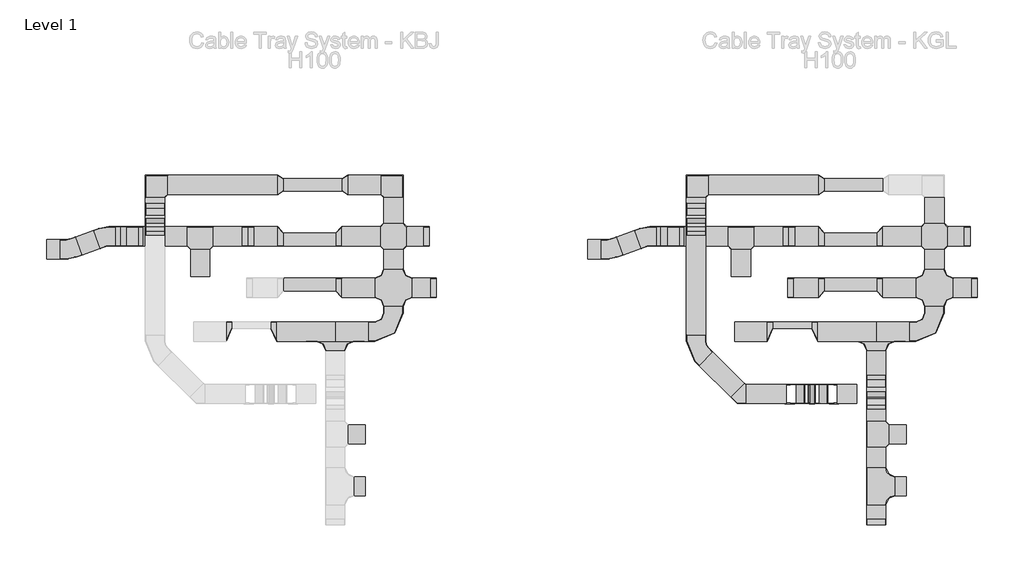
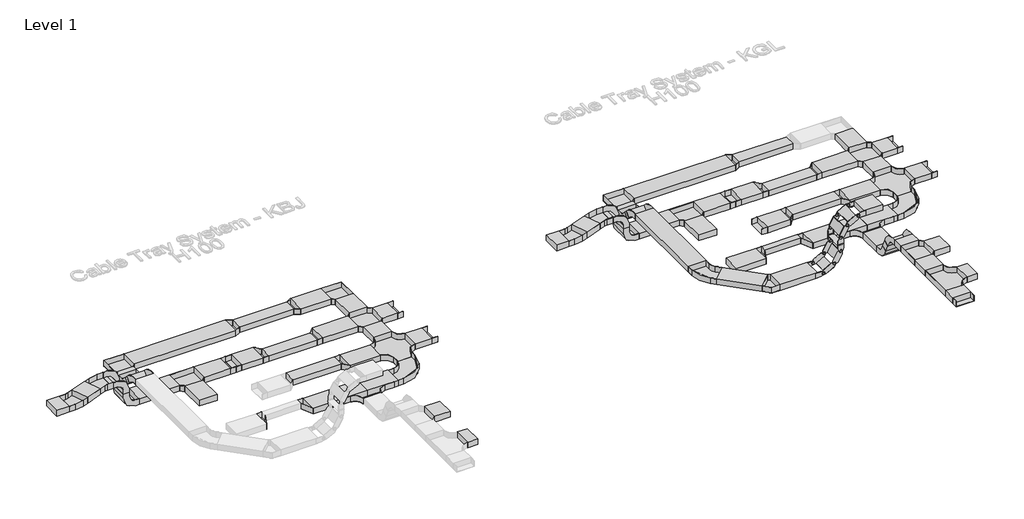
# One storey, part 25 of 106: 67 cable carrier fittings, 58 cable carrier segments.
"""IFC4 building model written with IfcOpenShell, lengths in millimetres."""

from ifc_helpers import new_model, si_unit, frame, origin, place, context, project, spatial, polyline, outline, extrude, transform, mapped, element, save
from components import cable_carrier_fitting_cb057536, cable_carrier_fitting_d4f283aa, cable_carrier_fitting_389af67d, cable_carrier_fitting_ab346bf8, cable_carrier_fitting_c163f1ca, cable_carrier_fitting_32826c86, cable_carrier_fitting_42195290, cable_carrier_fitting_5f227b89, cable_carrier_fitting_7ef83dec, cable_carrier_fitting_1d3f857e, cable_carrier_fitting_24d58ad9, cable_carrier_fitting_81c76d70, cable_carrier_fitting_e69bf5bc, cable_carrier_fitting_b7b75895, cable_carrier_fitting_0afdfe74, cable_carrier_fitting_3a6d649d, cable_carrier_fitting_2d5aa353, cable_carrier_fitting_83230dc4, cable_carrier_fitting_3cbe9e62, cable_carrier_fitting_c86838e9, cable_carrier_fitting_985dcf24, cable_carrier_fitting_ca5a2d19, cable_carrier_fitting_0a0ebc2e, cable_carrier_fitting_46bfce34, cable_carrier_fitting_f50788b4, cable_carrier_fitting_851eb94e, cable_carrier_fitting_844d2b92, cable_carrier_fitting_c0e00dde

model = new_model("IFC4")

# Units and contexts
model_context = context("Model", 3, world=origin())
ifc_project = project(units=[si_unit("LENGTHUNIT", "METRE", prefix="MILLI")], contexts=[model_context])

# Site, building, storey
site = spatial("IfcSite", under=ifc_project)
building = spatial("IfcBuilding", under=site)
storey = spatial("IfcBuildingStorey", under=building, Name="Level 1", Elevation=0.0)

# Cable carrier fittings
placement = place(None, origin())
cable_carrier_fitting_shape = cable_carrier_fitting_cb057536(model_context)
element("IfcCableCarrierFitting", 1, ObjectType="BAKS_BEND_Adjustable vertical bend element_EL : ELP_H100", at=placement, inside=storey, context=model_context, shape_type="MappedRepresentation", body=[
    mapped(cable_carrier_fitting_shape, transform((167033.2340999, 66131.3714214, 322.7153903), x_axis=(0.4999999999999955, 0.0, 0.8660254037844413), y_axis=(0.0, 1.0, 0.0), z_axis=(-0.8660254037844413, 0.0, 0.4999999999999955))),
])
element("IfcCableCarrierFitting", 2, ObjectType="BAKS_BEND_Adjustable vertical bend element_EL : ELP_H100", at=placement, inside=storey, context=model_context, shape_type="MappedRepresentation", body=[
    mapped(cable_carrier_fitting_shape, transform((166836.5219776, 66131.3714214, 223.0), x_axis=(0.8660254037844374, 0.0, 0.5000000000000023), y_axis=(0.0, 1.0, 0.0), z_axis=(-0.5000000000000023, 0.0, 0.8660254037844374))),
])
element("IfcCableCarrierFitting", 3, ObjectType="BAKS_BEND_Adjustable vertical bend element_EL : ELP_H100", at=placement, inside=storey, context=model_context, shape_type="MappedRepresentation", body=[
    mapped(cable_carrier_fitting_shape, transform((167241.4494902, 66131.3714214, 936.9011537), x_axis=(0.8660254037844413, 0.0, 0.4999999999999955), y_axis=(0.0, -1.0, 0.0), z_axis=(0.4999999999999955, 0.0, -0.8660254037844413))),
])
element("IfcCableCarrierFitting", 4, ObjectType="BAKS_BEND_Adjustable vertical bend element_EL : ELP_H100", at=placement, inside=storey, context=model_context, shape_type="MappedRepresentation", body=[
    mapped(cable_carrier_fitting_shape, transform((167141.7340999, 66131.3714214, 740.1890314), x_axis=(0.5000000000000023, 0.0, 0.8660254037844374), y_axis=(0.0, -1.0, 0.0), z_axis=(0.8660254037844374, 0.0, -0.5000000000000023))),
])
cable_carrier_fitting_2_shape = cable_carrier_fitting_d4f283aa(model_context)
element("IfcCableCarrierFitting", 5, ObjectType="BAKS_Reducer : RK(S/L/P)J_H100", at=placement, inside=storey, context=model_context, shape_type="MappedRepresentation", body=[
    mapped(cable_carrier_fitting_2_shape, transform((158399.3329462, 68580.8714214, 0.0), x_axis=(1.0, 0.0, 0.0), y_axis=(0.0, 1.0, 0.0), z_axis=(0.0, 0.0, 1.0))),
])
element("IfcCableCarrierFitting", 6, ObjectType="BAKS_Reducer : RK(S/L/P)J_H100", at=placement, inside=storey, context=model_context, shape_type="MappedRepresentation", body=[
    mapped(cable_carrier_fitting_2_shape, transform((158399.3329462, 68580.8714214, 0.0), x_axis=(-1.0, 0.0, 0.0), y_axis=(0.0, -1.0, 0.0), z_axis=(0.0, 0.0, 1.0))),
])
element("IfcCableCarrierFitting", 7, ObjectType="BAKS_Reducer : RK(S/L/P)J_H100", at=placement, inside=storey, context=model_context, shape_type="MappedRepresentation", body=[
    mapped(cable_carrier_fitting_2_shape, transform((161211.8329462, 68580.8714214, 0.0), x_axis=(-1.0, 0.0, 0.0), y_axis=(0.0, -1.0, 0.0), z_axis=(0.0, 0.0, 1.0))),
])
element("IfcCableCarrierFitting", 8, ObjectType="BAKS_Reducer : RK(S/L/P)J_H100", at=placement, inside=storey, context=model_context, shape_type="MappedRepresentation", body=[
    mapped(cable_carrier_fitting_2_shape, transform((161325.8329462, 67780.8714214, 0.0), x_axis=(-1.0, 0.0, 0.0), y_axis=(0.0, -1.0, 0.0), z_axis=(0.0, 0.0, 1.0))),
])
element("IfcCableCarrierFitting", 9, ObjectType="BAKS_Reducer : RK(S/L/P)J_H100", at=placement, inside=storey, context=model_context, shape_type="MappedRepresentation", body=[
    mapped(cable_carrier_fitting_2_shape, transform((166799.3329462, 68580.8714214, 0.0), x_axis=(1.0, 0.0, 0.0), y_axis=(0.0, 1.0, 0.0), z_axis=(0.0, 0.0, 1.0))),
])
element("IfcCableCarrierFitting", 10, ObjectType="BAKS_Reducer : RK(S/L/P)J_H100", at=placement, inside=storey, context=model_context, shape_type="MappedRepresentation", body=[
    mapped(cable_carrier_fitting_2_shape, transform((166799.3329462, 68580.8714214, 0.0), x_axis=(-1.0, 0.0, 0.0), y_axis=(0.0, -1.0, 0.0), z_axis=(0.0, 0.0, 1.0))),
])
element("IfcCableCarrierFitting", 11, ObjectType="BAKS_Reducer : RK(S/L/P)J_H100", at=placement, inside=storey, context=model_context, shape_type="MappedRepresentation", body=[
    mapped(cable_carrier_fitting_2_shape, transform((166777.8329462, 67780.8714214, 0.0), x_axis=(1.0, 0.0, 0.0), y_axis=(0.0, 1.0, 0.0), z_axis=(0.0, 0.0, 1.0))),
])
element("IfcCableCarrierFitting", 12, ObjectType="BAKS_Reducer : RK(S/L/P)J_H100", at=placement, inside=storey, context=model_context, shape_type="MappedRepresentation", body=[
    mapped(cable_carrier_fitting_2_shape, transform((169611.8329462, 68580.8714214, 0.0), x_axis=(-1.0, 0.0, 0.0), y_axis=(0.0, -1.0, 0.0), z_axis=(0.0, 0.0, 1.0))),
])
element("IfcCableCarrierFitting", 13, ObjectType="BAKS_Reducer : RK(S/L/P)J_H100", at=placement, inside=storey, context=model_context, shape_type="MappedRepresentation", body=[
    mapped(cable_carrier_fitting_2_shape, transform((169725.8329462, 67780.8714214, 0.0), x_axis=(-1.0, 0.0, 0.0), y_axis=(0.0, -1.0, 0.0), z_axis=(0.0, 0.0, 1.0))),
])
element("IfcCableCarrierFitting", 14, ObjectType="BAKS_Reducer : RK(S/L/P)J_H100", at=placement, inside=storey, context=model_context, shape_type="MappedRepresentation", body=[
    mapped(cable_carrier_fitting_2_shape, transform((168153.8329462, 64094.2974728, 432.5277378), x_axis=(0.0, 1.0, 0.0), y_axis=(-1.0, 0.0, 0.0), z_axis=(0.0, 0.0, 1.0))),
])
cable_carrier_fitting_3_shape = cable_carrier_fitting_389af67d(model_context)
element("IfcCableCarrierFitting", 15, ObjectType="BAKS_Reducer : RK(S/L/P)J_H100", at=placement, inside=storey, context=model_context, shape_type="MappedRepresentation", body=[
    mapped(cable_carrier_fitting_3_shape, transform((158856.8329462, 69380.8714214, 0.0), x_axis=(1.0, 0.0, 0.0), y_axis=(0.0, 1.0, 0.0), z_axis=(0.0, 0.0, 1.0))),
])
element("IfcCableCarrierFitting", 16, ObjectType="BAKS_Reducer : RK(S/L/P)J_H100", at=placement, inside=storey, context=model_context, shape_type="MappedRepresentation", body=[
    mapped(cable_carrier_fitting_3_shape, transform((167256.8329462, 69380.8714214, 0.0), x_axis=(1.0, 0.0, 0.0), y_axis=(0.0, 1.0, 0.0), z_axis=(0.0, 0.0, 1.0))),
])
cable_carrier_fitting_4_shape = cable_carrier_fitting_ab346bf8(model_context)
element("IfcCableCarrierFitting", 17, ObjectType="BAKS_Reducer : RK(S/L/P)J_H100", at=placement, inside=storey, context=model_context, shape_type="MappedRepresentation", body=[
    mapped(cable_carrier_fitting_4_shape, transform((159856.8329462, 69380.8714214, 0.0), x_axis=(1.0, 0.0, 0.0), y_axis=(0.0, 1.0, 0.0), z_axis=(0.0, 0.0, 1.0))),
])
cable_carrier_fitting_5_shape = cable_carrier_fitting_c163f1ca(model_context)
element("IfcCableCarrierFitting", 18, ObjectType="BAKS_Reducer : RK(S/L/P)J_H100", at=placement, inside=storey, context=model_context, shape_type="MappedRepresentation", body=[
    mapped(cable_carrier_fitting_5_shape, transform((159761.8329462, 68530.8714214, 0.0), x_axis=(1.0, 0.0, 0.0), y_axis=(0.0, 1.0, 0.0), z_axis=(0.0, 0.0, 1.0))),
])
element("IfcCableCarrierFitting", 19, ObjectType="BAKS_Reducer : RK(S/L/P)J_H100", at=placement, inside=storey, context=model_context, shape_type="MappedRepresentation", body=[
    mapped(cable_carrier_fitting_5_shape, transform((168161.8329462, 68530.8714214, 0.0), x_axis=(1.0, 0.0, 0.0), y_axis=(0.0, 1.0, 0.0), z_axis=(0.0, 0.0, 1.0))),
])
element("IfcCableCarrierFitting", 20, ObjectType="BAKS_Reducer : RK(S/L/P)J_H100", at=placement, inside=storey, context=model_context, shape_type="MappedRepresentation", body=[
    mapped(cable_carrier_fitting_5_shape, transform((167351.8329462, 67830.8714214, 0.0), x_axis=(-1.0, 0.0, 0.0), y_axis=(0.0, -1.0, 0.0), z_axis=(0.0, 0.0, 1.0))),
])
cable_carrier_fitting_6_shape = cable_carrier_fitting_32826c86(model_context)
element("IfcCableCarrierFitting", 21, ObjectType="BAKS_Reducer : RK(S/L/P)J_H100", at=placement, inside=storey, context=model_context, shape_type="MappedRepresentation", body=[
    mapped(cable_carrier_fitting_6_shape, transform((158951.8329462, 68530.8714214, 0.0), x_axis=(-1.0, 0.0, 0.0), y_axis=(0.0, -1.0, 0.0), z_axis=(0.0, 0.0, 1.0))),
])
element("IfcCableCarrierFitting", 22, ObjectType="BAKS_Reducer : RK(S/L/P)J_H100", at=placement, inside=storey, context=model_context, shape_type="MappedRepresentation", body=[
    mapped(cable_carrier_fitting_6_shape, transform((159761.8329462, 67830.8714214, 0.0), x_axis=(1.0, 0.0, 0.0), y_axis=(0.0, 1.0, 0.0), z_axis=(0.0, 0.0, 1.0))),
])
element("IfcCableCarrierFitting", 23, ObjectType="BAKS_Reducer : RK(S/L/P)J_H100", at=placement, inside=storey, context=model_context, shape_type="MappedRepresentation", body=[
    mapped(cable_carrier_fitting_6_shape, transform((167351.8329462, 68530.8714214, 0.0), x_axis=(-1.0, 0.0, 0.0), y_axis=(0.0, -1.0, 0.0), z_axis=(0.0, 0.0, 1.0))),
])
element("IfcCableCarrierFitting", 24, ObjectType="BAKS_Reducer : RK(S/L/P)J_H100", at=placement, inside=storey, context=model_context, shape_type="MappedRepresentation", body=[
    mapped(cable_carrier_fitting_6_shape, transform((168161.8329462, 67830.8714214, 0.0), x_axis=(1.0, 0.0, 0.0), y_axis=(0.0, 1.0, 0.0), z_axis=(0.0, 0.0, 1.0))),
])
cable_carrier_fitting_7_shape = cable_carrier_fitting_42195290(model_context)
element("IfcCableCarrierFitting", 25, ObjectType="BAKS_Horizontal bend : KKJ/KKMJ_H100", at=placement, inside=storey, context=model_context, shape_type="MappedRepresentation", body=[
    mapped(cable_carrier_fitting_7_shape, transform((160656.8329462, 69380.8714214, 0.0), x_axis=(0.0, 1.0, 0.0), y_axis=(-1.0, 0.0, 0.0), z_axis=(0.0, 0.0, 1.0))),
])
element("IfcCableCarrierFitting", 26, ObjectType="BAKS_Horizontal bend : KKJ/KKMJ_H100", at=placement, inside=storey, context=model_context, shape_type="MappedRepresentation", body=[
    mapped(cable_carrier_fitting_7_shape, transform((156956.8329462, 69380.8714214, 0.0), x_axis=(-1.0, 0.0, 0.0), y_axis=(0.0, -1.0, 0.0), z_axis=(0.0, 0.0, 1.0))),
])
element("IfcCableCarrierFitting", 27, ObjectType="BAKS_Horizontal bend : KKJ/KKMJ_H100", at=placement, inside=storey, context=model_context, shape_type="MappedRepresentation", body=[
    mapped(cable_carrier_fitting_7_shape, transform((165356.8329462, 69380.8714214, 0.0), x_axis=(-1.0, 0.0, 0.0), y_axis=(0.0, -1.0, 0.0), z_axis=(0.0, 0.0, 1.0))),
])
cable_carrier_fitting_8_shape = cable_carrier_fitting_5f227b89(model_context)
element("IfcCableCarrierFitting", 28, ObjectType="BAKS_Horizontal cross over : CZKJ_H100", at=placement, inside=storey, context=model_context, shape_type="MappedRepresentation", body=[
    mapped(cable_carrier_fitting_8_shape, transform((160656.8329462, 68580.8714214, 0.0), x_axis=(0.0, -1.0, 0.0), y_axis=(1.0, 0.0, 0.0), z_axis=(0.0, 0.0, 1.0))),
])
element("IfcCableCarrierFitting", 29, ObjectType="BAKS_Horizontal cross over : CZKJ_H100", at=placement, inside=storey, context=model_context, shape_type="MappedRepresentation", body=[
    mapped(cable_carrier_fitting_8_shape, transform((169056.8329462, 68580.8714214, 0.0), x_axis=(0.0, -1.0, 0.0), y_axis=(1.0, 0.0, 0.0), z_axis=(0.0, 0.0, 1.0))),
])
cable_carrier_fitting_9_shape = cable_carrier_fitting_7ef83dec(model_context)
element("IfcCableCarrierFitting", 30, ObjectType="BAKS_Horizontal cross over radius : CZKPJ_H100", at=placement, inside=storey, context=model_context, shape_type="MappedRepresentation", body=[
    mapped(cable_carrier_fitting_9_shape, transform((160656.8329462, 67780.8714214, 0.0), x_axis=(0.0, -1.0, 0.0), y_axis=(1.0, 0.0, 0.0), z_axis=(0.0, 0.0, 1.0))),
])
element("IfcCableCarrierFitting", 31, ObjectType="BAKS_Horizontal cross over radius : CZKPJ_H100", at=placement, inside=storey, context=model_context, shape_type="MappedRepresentation", body=[
    mapped(cable_carrier_fitting_9_shape, transform((169056.8329462, 67780.8714214, 0.0), x_axis=(0.0, -1.0, 0.0), y_axis=(1.0, 0.0, 0.0), z_axis=(0.0, 0.0, 1.0))),
])
cable_carrier_fitting_10_shape = cable_carrier_fitting_1d3f857e(model_context)
element("IfcCableCarrierFitting", 32, ObjectType="BAKS_Horizontal bend radius : KKPJ/KKMPJ_H100", at=placement, inside=storey, context=model_context, shape_type="MappedRepresentation", body=[
    mapped(cable_carrier_fitting_10_shape, transform((165356.8329462, 66830.8714214, 235.0), x_axis=(0.0, -1.0, 0.0), y_axis=(1.0, 0.0, 0.0), z_axis=(0.0, 0.0, 1.0))),
])
cable_carrier_fitting_11_shape = cable_carrier_fitting_24d58ad9(model_context)
element("IfcCableCarrierFitting", 33, ObjectType="BAKS_Horizontal bend radius : KKPJ/KKMPJ_H100", at=placement, inside=storey, context=model_context, shape_type="MappedRepresentation", body=[
    mapped(cable_carrier_fitting_11_shape, transform((160656.8329462, 67099.8714214, 0.0), x_axis=(1.0, 0.0, 0.0), y_axis=(0.0, 1.0, 0.0), z_axis=(0.0, 0.0, 1.0))),
])
element("IfcCableCarrierFitting", 34, ObjectType="BAKS_Horizontal bend radius : KKPJ/KKMPJ_H100", at=placement, inside=storey, context=model_context, shape_type="MappedRepresentation", body=[
    mapped(cable_carrier_fitting_11_shape, transform((169056.8329462, 67099.8714214, 0.0), x_axis=(1.0, 0.0, 0.0), y_axis=(0.0, 1.0, 0.0), z_axis=(0.0, 0.0, 1.0))),
])
cable_carrier_fitting_12_shape = cable_carrier_fitting_81c76d70(model_context)
element("IfcCableCarrierFitting", 35, ObjectType="BAKS_Horizontal addon tee : TKDJ_H100", at=placement, inside=storey, context=model_context, shape_type="MappedRepresentation", body=[
    mapped(cable_carrier_fitting_12_shape, transform((159753.8329462, 67099.8714214, 0.0), x_axis=(1.0, 0.0, 0.0), y_axis=(0.0, 1.0, 0.0), z_axis=(0.0, 0.0, 1.0))),
])
element("IfcCableCarrierFitting", 36, ObjectType="BAKS_Horizontal addon tee : TKDJ_H100", at=placement, inside=storey, context=model_context, shape_type="MappedRepresentation", body=[
    mapped(cable_carrier_fitting_12_shape, transform((168153.8329462, 67099.8714214, 0.0), x_axis=(1.0, 0.0, 0.0), y_axis=(0.0, 1.0, 0.0), z_axis=(0.0, 0.0, 1.0))),
])
cable_carrier_fitting_13_shape = cable_carrier_fitting_e69bf5bc(model_context)
element("IfcCableCarrierFitting", 37, ObjectType="BAKS_Reducer : RK(S/L/P)J_H100", at=placement, inside=storey, context=model_context, shape_type="MappedRepresentation", body=[
    mapped(cable_carrier_fitting_13_shape, transform((158750.8329462, 67199.8714214, 0.0), x_axis=(1.0, 0.0, 0.0), y_axis=(0.0, 1.0, 0.0), z_axis=(0.0, 0.0, 1.0))),
])
element("IfcCableCarrierFitting", 38, ObjectType="BAKS_Reducer : RK(S/L/P)J_H100", at=placement, inside=storey, context=model_context, shape_type="MappedRepresentation", body=[
    mapped(cable_carrier_fitting_13_shape, transform((167150.8329462, 67199.8714214, 0.0), x_axis=(1.0, 0.0, 0.0), y_axis=(0.0, 1.0, 0.0), z_axis=(0.0, 0.0, 1.0))),
])
cable_carrier_fitting_14_shape = cable_carrier_fitting_b7b75895(model_context)
element("IfcCableCarrierFitting", 39, ObjectType="BAKS_Reducer : RK(S/L/P)J_H100", at=placement, inside=storey, context=model_context, shape_type="MappedRepresentation", body=[
    mapped(cable_carrier_fitting_14_shape, transform((158152.8329462, 67199.8714214, 0.0), x_axis=(-1.0, 0.0, 0.0), y_axis=(0.0, -1.0, 0.0), z_axis=(0.0, 0.0, 1.0))),
])
element("IfcCableCarrierFitting", 40, ObjectType="BAKS_Reducer : RK(S/L/P)J_H100", at=placement, inside=storey, context=model_context, shape_type="MappedRepresentation", body=[
    mapped(cable_carrier_fitting_14_shape, transform((166552.8329462, 67199.8714214, 0.0), x_axis=(-1.0, 0.0, 0.0), y_axis=(0.0, -1.0, 0.0), z_axis=(0.0, 0.0, 1.0))),
])
cable_carrier_fitting_15_shape = cable_carrier_fitting_0afdfe74(model_context)
element("IfcCableCarrierFitting", 41, ObjectType="BAKS_Horizontal tee : TKJ_H100", at=placement, inside=storey, context=model_context, shape_type="MappedRepresentation", body=[
    mapped(cable_carrier_fitting_15_shape, transform((157656.3329462, 68580.8714214, 0.0), x_axis=(1.0, 0.0, 0.0), y_axis=(0.0, 1.0, 0.0), z_axis=(0.0, 0.0, 1.0))),
])
element("IfcCableCarrierFitting", 42, ObjectType="BAKS_Horizontal tee : TKJ_H100", at=placement, inside=storey, context=model_context, shape_type="MappedRepresentation", body=[
    mapped(cable_carrier_fitting_15_shape, transform((166056.3329462, 68580.8714214, 0.0), x_axis=(1.0, 0.0, 0.0), y_axis=(0.0, 1.0, 0.0), z_axis=(0.0, 0.0, 1.0))),
])
element("IfcCableCarrierFitting", 43, ObjectType="BAKS_Horizontal tee : TKJ_H100", at=placement, inside=storey, context=model_context, shape_type="MappedRepresentation", body=[
    mapped(cable_carrier_fitting_15_shape, transform((168153.8329462, 65503.8631068, 432.5277378), x_axis=(0.0, 1.0, 0.0), y_axis=(-1.0, 0.0, 0.0), z_axis=(0.0, 0.0, 1.0))),
])
cable_carrier_fitting_16_shape = cable_carrier_fitting_3a6d649d(model_context)
element("IfcCableCarrierFitting", 44, ObjectType="BAKS_Horizontal bend radius : KKPJ/KKMPJ_H100", at=placement, inside=storey, context=model_context, shape_type="MappedRepresentation", body=[
    mapped(cable_carrier_fitting_16_shape, transform((156186.1981218, 68580.8714214, 438.0), x_axis=(-1.0, 0.0, 0.0), y_axis=(0.0, -1.0, 0.0), z_axis=(0.0, 0.0, 1.0))),
])
element("IfcCableCarrierFitting", 45, ObjectType="BAKS_Horizontal bend radius : KKPJ/KKMPJ_H100", at=placement, inside=storey, context=model_context, shape_type="MappedRepresentation", body=[
    mapped(cable_carrier_fitting_16_shape, transform((155630.7130894, 68378.691404, 438.0), x_axis=(1.0, 0.0, 0.0), y_axis=(0.0, 1.0, 0.0), z_axis=(0.0, 0.0, 1.0))),
])
element("IfcCableCarrierFitting", 46, ObjectType="BAKS_Horizontal bend radius : KKPJ/KKMPJ_H100", at=placement, inside=storey, context=model_context, shape_type="MappedRepresentation", body=[
    mapped(cable_carrier_fitting_16_shape, transform((164586.1981218, 68580.8714214, 438.0), x_axis=(-1.0, 0.0, 0.0), y_axis=(0.0, -1.0, 0.0), z_axis=(0.0, 0.0, 1.0))),
])
element("IfcCableCarrierFitting", 47, ObjectType="BAKS_Horizontal bend radius : KKPJ/KKMPJ_H100", at=placement, inside=storey, context=model_context, shape_type="MappedRepresentation", body=[
    mapped(cable_carrier_fitting_16_shape, transform((164030.7130894, 68378.691404, 438.0), x_axis=(1.0, 0.0, 0.0), y_axis=(0.0, 1.0, 0.0), z_axis=(0.0, 0.0, 1.0))),
])
cable_carrier_fitting_17_shape = cable_carrier_fitting_2d5aa353(model_context)
element("IfcCableCarrierFitting", 48, ObjectType="BAKS_BEND_Articulated connector_LGP : LGP_H100", at=placement, inside=storey, context=model_context, shape_type="MappedRepresentation", body=[
    mapped(cable_carrier_fitting_17_shape, transform((166857.3065873, 65981.3714214, 235.0), x_axis=(1.0, 0.0, 0.0), y_axis=(0.0, 0.0, 1.0), z_axis=(0.0, -1.0, 0.0))),
])
element("IfcCableCarrierFitting", 49, ObjectType="BAKS_BEND_Articulated connector_LGP : LGP_H100", at=placement, inside=storey, context=model_context, shape_type="MappedRepresentation", body=[
    mapped(cable_carrier_fitting_17_shape, transform((167153.7340999, 66281.3714214, 760.9736411), x_axis=(0.0, 0.0, 1.0), y_axis=(1.0, 0.0, 0.0), z_axis=(0.0, 1.0, 0.0))),
])
cable_carrier_fitting_18_shape = cable_carrier_fitting_83230dc4(model_context)
element("IfcCableCarrierFitting", 50, ObjectType="BAKS_BEND_Articulated connector_LGP : LGP_H100", at=placement, inside=storey, context=model_context, shape_type="MappedRepresentation", body=[
    mapped(cable_carrier_fitting_18_shape, transform((167153.7340999, 65981.3714214, 531.4275126), x_axis=(0.4999999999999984, 0.0, 0.8660254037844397), y_axis=(-0.8660254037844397, 0.0, 0.4999999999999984), z_axis=(0.0, -1.0, 0.0))),
])
element("IfcCableCarrierFitting", 51, ObjectType="BAKS_BEND_Articulated connector_LGP : LGP_H100", at=placement, inside=storey, context=model_context, shape_type="MappedRepresentation", body=[
    mapped(cable_carrier_fitting_18_shape, transform((167450.1616126, 66281.3714214, 1057.4011537), x_axis=(0.8660254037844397, 0.0, 0.4999999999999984), y_axis=(0.4999999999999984, 0.0, -0.8660254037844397), z_axis=(0.0, 1.0, 0.0))),
])
cable_carrier_fitting_19_shape = cable_carrier_fitting_3cbe9e62(model_context)
element("IfcCableCarrierFitting", 52, ObjectType="BAKS_BEND_Articulated connector_LGP : LGP_H100", at=placement, inside=storey, context=model_context, shape_type="MappedRepresentation", body=[
    mapped(cable_carrier_fitting_19_shape, transform((167153.7340999, 66281.3714214, 531.4275126), x_axis=(0.4999999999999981, 0.0, 0.8660254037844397), y_axis=(0.8660254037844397, 0.0, -0.4999999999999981), z_axis=(0.0, 1.0, 0.0))),
])
element("IfcCableCarrierFitting", 53, ObjectType="BAKS_BEND_Articulated connector_LGP : LGP_H100", at=placement, inside=storey, context=model_context, shape_type="MappedRepresentation", body=[
    mapped(cable_carrier_fitting_19_shape, transform((167450.1616126, 65981.3714214, 1057.4011537), x_axis=(0.8660254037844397, 0.0, 0.4999999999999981), y_axis=(-0.4999999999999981, 0.0, 0.8660254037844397), z_axis=(0.0, -1.0, 0.0))),
])
cable_carrier_fitting_20_shape = cable_carrier_fitting_c86838e9(model_context)
element("IfcCableCarrierFitting", 54, ObjectType="BAKS_BEND_Articulated connector_LGP : LGP_H100", at=placement, inside=storey, context=model_context, shape_type="MappedRepresentation", body=[
    mapped(cable_carrier_fitting_20_shape, transform((166857.3065873, 66281.3714214, 235.0), x_axis=(1.0, 0.0, 0.0), y_axis=(0.0, 0.0, -1.0), z_axis=(0.0, 1.0, 0.0))),
])
element("IfcCableCarrierFitting", 55, ObjectType="BAKS_BEND_Articulated connector_LGP : LGP_H100", at=placement, inside=storey, context=model_context, shape_type="MappedRepresentation", body=[
    mapped(cable_carrier_fitting_20_shape, transform((167153.7340999, 65981.3714214, 760.9736411), x_axis=(0.0, 0.0, 1.0), y_axis=(-1.0, 0.0, 0.0), z_axis=(0.0, -1.0, 0.0))),
])
cable_carrier_fitting_21_shape = cable_carrier_fitting_985dcf24(model_context)
element("IfcCableCarrierFitting", 56, ObjectType="BAKS_Horizontal bend : KKJ/KKMJ_H100", at=placement, inside=storey, context=model_context, shape_type="MappedRepresentation", body=[
    mapped(cable_carrier_fitting_21_shape, transform((166056.3329462, 66131.3714214, 235.0), x_axis=(0.707106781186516, -0.707106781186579, 0.0), y_axis=(0.707106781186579, 0.707106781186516, 0.0), z_axis=(0.0, 0.0, 1.0))),
])
cable_carrier_fitting_22_shape = cable_carrier_fitting_ca5a2d19(model_context)
element("IfcCableCarrierFitting", 57, ObjectType="BAKS_Horizontal tee radius : TKPJ_H100", at=placement, inside=storey, context=model_context, shape_type="MappedRepresentation", body=[
    mapped(cable_carrier_fitting_22_shape, transform((168153.8329462, 64696.5802898, 432.5277378), x_axis=(0.0, 1.0, 0.0), y_axis=(-1.0, 0.0, 0.0), z_axis=(0.0, 0.0, 1.0))),
])
cable_carrier_fitting_23_shape = cable_carrier_fitting_0a0ebc2e(model_context)
element("IfcCableCarrierFitting", 58, ObjectType="BAKS_KK_Vertical bend INTERNAL_LU : LUNJ_H100", at=placement, inside=storey, context=model_context, shape_type="MappedRepresentation", body=[
    mapped(cable_carrier_fitting_23_shape, transform((156556.3329462, 68580.8714214, 438.0), x_axis=(0.0, 0.0, 1.0), y_axis=(-1.0, 0.0, 0.0), z_axis=(0.0, -1.0, 0.0))),
])
element("IfcCableCarrierFitting", 59, ObjectType="BAKS_KK_Vertical bend INTERNAL_LU : LUNJ_H100", at=placement, inside=storey, context=model_context, shape_type="MappedRepresentation", body=[
    mapped(cable_carrier_fitting_23_shape, transform((164956.3329462, 68580.8714214, 438.0), x_axis=(0.0, 0.0, 1.0), y_axis=(-1.0, 0.0, 0.0), z_axis=(0.0, -1.0, 0.0))),
])
cable_carrier_fitting_24_shape = cable_carrier_fitting_46bfce34(model_context)
element("IfcCableCarrierFitting", 60, ObjectType="BAKS_KK_Vertical bend EXTERNAL_LU : LUNJ_H100", at=placement, inside=storey, context=model_context, shape_type="MappedRepresentation", body=[
    mapped(cable_carrier_fitting_24_shape, transform((156556.3329462, 68580.8714214, 0.0), x_axis=(-1.0, 0.0, 0.0), y_axis=(0.0, 0.0, 1.0), z_axis=(0.0, 1.0, 0.0))),
])
element("IfcCableCarrierFitting", 61, ObjectType="BAKS_KK_Vertical bend EXTERNAL_LU : LUNJ_H100", at=placement, inside=storey, context=model_context, shape_type="MappedRepresentation", body=[
    mapped(cable_carrier_fitting_24_shape, transform((164956.3329462, 68580.8714214, 0.0), x_axis=(-1.0, 0.0, 0.0), y_axis=(0.0, 0.0, 1.0), z_axis=(0.0, 1.0, 0.0))),
])
cable_carrier_fitting_25_shape = cable_carrier_fitting_f50788b4(model_context)
element("IfcCableCarrierFitting", 62, ObjectType="BAKS_KK_Vertical bend EXTERNAL_LU : LUMNJ_H100", at=placement, inside=storey, context=model_context, shape_type="MappedRepresentation", body=[
    mapped(cable_carrier_fitting_25_shape, transform((168153.8329462, 66258.7056523, 0.0), x_axis=(0.0, -1.0, 0.0), y_axis=(0.0, 0.0, 1.0), z_axis=(-1.0, 0.0, 0.0))),
])
cable_carrier_fitting_26_shape = cable_carrier_fitting_851eb94e(model_context)
element("IfcCableCarrierFitting", 63, ObjectType="BAKS_KK_Vertical bend EXTERNAL_LU : LUMNJ_H100", at=placement, inside=storey, context=model_context, shape_type="MappedRepresentation", body=[
    mapped(cable_carrier_fitting_26_shape, transform((156956.8329462, 68960.8714214, 0.0), x_axis=(0.0, -1.0, 0.0), y_axis=(0.0, 0.0, 1.0), z_axis=(-1.0, 0.0, 0.0))),
])
element("IfcCableCarrierFitting", 64, ObjectType="BAKS_KK_Vertical bend EXTERNAL_LU : LUMNJ_H100", at=placement, inside=storey, context=model_context, shape_type="MappedRepresentation", body=[
    mapped(cable_carrier_fitting_26_shape, transform((165356.8329462, 68960.8714214, 0.0), x_axis=(0.0, -1.0, 0.0), y_axis=(0.0, 0.0, 1.0), z_axis=(-1.0, 0.0, 0.0))),
])
cable_carrier_fitting_27_shape = cable_carrier_fitting_844d2b92(model_context)
element("IfcCableCarrierFitting", 65, ObjectType="BAKS_KK_Vertical bend INTERNAL_LU : LUMNJ_H100", at=placement, inside=storey, context=model_context, shape_type="MappedRepresentation", body=[
    mapped(cable_carrier_fitting_27_shape, transform((168153.8329462, 66057.0146558, 432.5277378), x_axis=(0.0, -0.42261826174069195, 0.9063077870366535), y_axis=(0.0, -0.9063077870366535, -0.42261826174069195), z_axis=(1.0, 0.0, 0.0))),
])
cable_carrier_fitting_28_shape = cable_carrier_fitting_c0e00dde(model_context)
element("IfcCableCarrierFitting", 66, ObjectType="BAKS_KK_Vertical bend INTERNAL_LU : LUMNJ_H100", at=placement, inside=storey, context=model_context, shape_type="MappedRepresentation", body=[
    mapped(cable_carrier_fitting_28_shape, transform((156956.8329462, 68725.8714214, 235.0), x_axis=(0.0, 1.0, 0.0), y_axis=(0.0, 0.0, -1.0), z_axis=(-1.0, 0.0, 0.0))),
])
element("IfcCableCarrierFitting", 67, ObjectType="BAKS_KK_Vertical bend INTERNAL_LU : LUMNJ_H100", at=placement, inside=storey, context=model_context, shape_type="MappedRepresentation", body=[
    mapped(cable_carrier_fitting_28_shape, transform((165356.8329462, 68725.8714214, 235.0), x_axis=(0.0, 1.0, 0.0), y_axis=(0.0, 0.0, -1.0), z_axis=(-1.0, 0.0, 0.0))),
])

# Cable carrier segments
element("IfcCableCarrierSegment", 68, ObjectType="BAKS - Cable tray H100 (KBJ)", at=placement, inside=storey, context=model_context, shape_type="SweptSolid", body=[
    extrude(outline(polyline([(158951.8329462, 69280.8714214), (158951.8329462, 69480.8714214), (159856.8329462, 69480.8714214), (159856.8329462, 69280.8714214), (158951.8329462, 69280.8714214)])), frame((0.0, 0.0, -50.0), z_axis=(0.0, 0.0, 1.0), x_axis=(1.0, 0.0, 0.0)), (0.0, 0.0, 1.0), 100.0),
])
element("IfcCableCarrierSegment", 69, ObjectType="BAKS - Cable tray H100 (KBJ)", at=placement, inside=storey, context=model_context, shape_type="SweptSolid", body=[
    extrude(outline(polyline([(159951.8329462, 69230.8714214), (159951.8329462, 69530.8714214), (160460.8329462, 69530.8714214), (160460.8329462, 69230.8714214), (159951.8329462, 69230.8714214)])), frame((0.0, 0.0, -50.0), z_axis=(0.0, 0.0, 1.0), x_axis=(1.0, 0.0, 0.0)), (0.0, 0.0, 1.0), 100.0),
])
element("IfcCableCarrierSegment", 70, ObjectType="BAKS - Cable tray H100 (KBJ)", at=placement, inside=storey, context=model_context, shape_type="SweptSolid", body=[
    extrude(outline(polyline([(160506.8329462, 69184.8714214), (160806.8329462, 69184.8714214), (160806.8329462, 68785.8714214), (160506.8329462, 68785.8714214), (160506.8329462, 69184.8714214)])), frame((0.0, 0.0, -50.0), z_axis=(0.0, 0.0, 1.0), x_axis=(1.0, 0.0, 0.0)), (0.0, 0.0, 1.0), 100.0),
])
element("IfcCableCarrierSegment", 71, ObjectType="BAKS - Cable tray H100 (KBJ)", at=placement, inside=storey, context=model_context, shape_type="SweptSolid", body=[
    extrude(outline(polyline([(160506.8329462, 68375.8714214), (160806.8329462, 68375.8714214), (160806.8329462, 68071.8714214), (160506.8329462, 68071.8714214), (160506.8329462, 68375.8714214)])), frame((0.0, 0.0, -50.0), z_axis=(0.0, 0.0, 1.0), x_axis=(1.0, 0.0, 0.0)), (0.0, 0.0, 1.0), 100.0),
])
element("IfcCableCarrierSegment", 72, ObjectType="BAKS - Cable tray H100 (KBJ)", at=placement, inside=storey, context=model_context, shape_type="SweptSolid", body=[
    extrude(outline(polyline([(159761.8329462, 68630.8714214), (159761.8329462, 68430.8714214), (158951.8329462, 68430.8714214), (158951.8329462, 68630.8714214), (159761.8329462, 68630.8714214)])), frame((0.0, 0.0, -50.0), z_axis=(0.0, 0.0, 1.0), x_axis=(1.0, 0.0, 0.0)), (0.0, 0.0, 1.0), 100.0),
])
element("IfcCableCarrierSegment", 73, ObjectType="BAKS - Cable tray H100 (KBJ)", at=placement, inside=storey, context=model_context, shape_type="SweptSolid", body=[
    extrude(outline(polyline([(158494.3329462, 68430.8714214), (158494.3329462, 68730.8714214), (158856.8329462, 68730.8714214), (158856.8329462, 68430.8714214), (158494.3329462, 68430.8714214)])), frame((0.0, 0.0, -50.0), z_axis=(0.0, 0.0, 1.0), x_axis=(1.0, 0.0, 0.0)), (0.0, 0.0, 1.0), 100.0),
])
element("IfcCableCarrierSegment", 74, ObjectType="BAKS - Cable tray H100 (KBJ)", at=placement, inside=storey, context=model_context, shape_type="SweptSolid", body=[
    extrude(outline(polyline([(160451.8329462, 68730.8714214), (160451.8329462, 68430.8714214), (159856.8329462, 68430.8714214), (159856.8329462, 68730.8714214), (160451.8329462, 68730.8714214)])), frame((0.0, 0.0, -50.0), z_axis=(0.0, 0.0, 1.0), x_axis=(1.0, 0.0, 0.0)), (0.0, 0.0, 1.0), 100.0),
])
element("IfcCableCarrierSegment", 75, ObjectType="BAKS - Cable tray H100 (KBJ)", at=placement, inside=storey, context=model_context, shape_type="SweptSolid", body=[
    extrude(outline(polyline([(159761.8329462, 67930.8714214), (159761.8329462, 67730.8714214), (158951.8329462, 67730.8714214), (158951.8329462, 67930.8714214), (159761.8329462, 67930.8714214)])), frame((0.0, 0.0, -50.0), z_axis=(0.0, 0.0, 1.0), x_axis=(1.0, 0.0, 0.0)), (0.0, 0.0, 1.0), 100.0),
])
element("IfcCableCarrierSegment", 76, ObjectType="BAKS - Cable tray H100 (KBJ)", at=placement, inside=storey, context=model_context, shape_type="SweptSolid", body=[
    extrude(outline(polyline([(160365.8329462, 67930.8714214), (160365.8329462, 67630.8714214), (159856.8329462, 67630.8714214), (159856.8329462, 67930.8714214), (160365.8329462, 67930.8714214)])), frame((0.0, 0.0, -50.0), z_axis=(0.0, 0.0, 1.0), x_axis=(1.0, 0.0, 0.0)), (0.0, 0.0, 1.0), 100.0),
])
element("IfcCableCarrierSegment", 77, ObjectType="BAKS - Cable tray H100 (KBJ)", at=placement, inside=storey, context=model_context, shape_type="SweptSolid", body=[
    extrude(outline(polyline([(157451.3329462, 68730.8714214), (157451.3329462, 68430.8714214), (156775.3329462, 68430.8714214), (156775.3329462, 68730.8714214), (157451.3329462, 68730.8714214)])), frame((0.0, 0.0, -50.0), z_axis=(0.0, 0.0, 1.0), x_axis=(1.0, 0.0, 0.0)), (0.0, 0.0, 1.0), 100.0),
])
element("IfcCableCarrierSegment", 78, ObjectType="BAKS - Cable tray H100 (KBJ)", at=placement, inside=storey, context=model_context, shape_type="SweptSolid", body=[
    extrude(outline(polyline([(157506.3329462, 68375.8714214), (157806.3329462, 68375.8714214), (157806.3329462, 67955.8714214), (157506.3329462, 67955.8714214), (157506.3329462, 68375.8714214)])), frame((0.0, 0.0, -50.0), z_axis=(0.0, 0.0, 1.0), x_axis=(1.0, 0.0, 0.0)), (0.0, 0.0, 1.0), 100.0),
])
element("IfcCableCarrierSegment", 79, ObjectType="BAKS - Cable tray H100 (KBJ)", at=placement, inside=storey, context=model_context, shape_type="SweptSolid", body=[
    extrude(outline(polyline([(158304.3329462, 68730.8714214), (158304.3329462, 68430.8714214), (157861.3329462, 68430.8714214), (157861.3329462, 68730.8714214), (158304.3329462, 68730.8714214)])), frame((0.0, 0.0, -50.0), z_axis=(0.0, 0.0, 1.0), x_axis=(1.0, 0.0, 0.0)), (0.0, 0.0, 1.0), 100.0),
])
element("IfcCableCarrierSegment", 80, ObjectType="BAKS - Cable tray H100 (KBJ)", at=placement, inside=storey, context=model_context, shape_type="SweptSolid", body=[
    extrude(outline(polyline([(160268.9020345, 67249.8714214), (160268.9020345, 66949.8714214), (159754.3750376, 66949.8714214), (159754.3750376, 67249.8714214), (160268.9020345, 67249.8714214)])), frame((0.0, 0.0, -50.0), z_axis=(0.0, 0.0, 1.0), x_axis=(1.0, 0.0, 0.0)), (0.0, 0.0, 1.0), 100.0),
])
element("IfcCableCarrierSegment", 81, ObjectType="BAKS - Cable tray H100 (KBJ)", at=placement, inside=storey, context=model_context, shape_type="SweptSolid", body=[
    extrude(outline(polyline([(160861.8329462, 68430.8714214), (160861.8329462, 68730.8714214), (161116.8329462, 68730.8714214), (161116.8329462, 68430.8714214), (160861.8329462, 68430.8714214)])), frame((0.0, 0.0, -50.0), z_axis=(0.0, 0.0, 1.0), x_axis=(1.0, 0.0, 0.0)), (0.0, 0.0, 1.0), 100.0),
])
element("IfcCableCarrierSegment", 82, ObjectType="BAKS - Cable tray H100 (KBJ)", at=placement, inside=storey, context=model_context, shape_type="SweptSolid", body=[
    extrude(outline(polyline([(160947.8329462, 67630.8714214), (160947.8329462, 67930.8714214), (161230.8329462, 67930.8714214), (161230.8329462, 67630.8714214), (160947.8329462, 67630.8714214)])), frame((0.0, 0.0, -50.0), z_axis=(0.0, 0.0, 1.0), x_axis=(1.0, 0.0, 0.0)), (0.0, 0.0, 1.0), 100.0),
])
element("IfcCableCarrierSegment", 83, ObjectType="BAKS - Cable tray H100 (KBJ)", at=placement, inside=storey, context=model_context, shape_type="SweptSolid", body=[
    extrude(outline(polyline([(157152.8329462, 69230.8714214), (157152.8329462, 69530.8714214), (158856.8329462, 69530.8714214), (158856.8329462, 69230.8714214), (157152.8329462, 69230.8714214)])), frame((0.0, 0.0, -50.0), z_axis=(0.0, 0.0, 1.0), x_axis=(1.0, 0.0, 0.0)), (0.0, 0.0, 1.0), 100.0),
])
element("IfcCableCarrierSegment", 84, ObjectType="BAKS - Cable tray H100 (KBJ)", at=placement, inside=storey, context=model_context, shape_type="SweptSolid", body=[
    extrude(outline(polyline([(159958.8329462, 65353.8631068), (159958.8329462, 65653.8631068), (160221.4800024, 65653.8631068), (160221.4800024, 65353.8631068), (159958.8329462, 65353.8631068)])), frame((0.0, 0.0, 382.5277378), z_axis=(0.0, 0.0, 1.0), x_axis=(1.0, 0.0, 0.0)), (0.0, 0.0, 1.0), 100.0),
])
element("IfcCableCarrierSegment", 85, ObjectType="BAKS - Cable tray H100 (KBJ)", at=placement, inside=storey, context=model_context, shape_type="SweptSolid", body=[
    extrude(outline(polyline([(160048.8329462, 64546.5802898), (160048.8329462, 64846.5802898), (160221.4800024, 64846.5802898), (160221.4800024, 64546.5802898), (160048.8329462, 64546.5802898)])), frame((0.0, 0.0, 382.5277378), z_axis=(0.0, 0.0, 1.0), x_axis=(1.0, 0.0, 0.0)), (0.0, 0.0, 1.0), 100.0),
])
element("IfcCableCarrierSegment", 86, ObjectType="BAKS - Cable tray H100 (KBJ)", at=placement, inside=storey, context=model_context, shape_type="SweptSolid", body=[
    extrude(outline(polyline([(158845.8329462, 66949.8714214), (158845.8329462, 67249.8714214), (159753.2908549, 67249.8714214), (159753.2908549, 66949.8714214), (158845.8329462, 66949.8714214)])), frame((0.0, 0.0, -50.0), z_axis=(0.0, 0.0, 1.0), x_axis=(1.0, 0.0, 0.0)), (0.0, 0.0, 1.0), 100.0),
])
element("IfcCableCarrierSegment", 87, ObjectType="BAKS - Cable tray H100 (KBJ)", at=placement, inside=storey, context=model_context, shape_type="SweptSolid", body=[
    extrude(outline(polyline([(155992.8748211, 68670.1341602), (156095.4808641, 68388.226374), (155824.0363902, 68289.4286652), (155721.4303472, 68571.3364515), (155992.8748211, 68670.1341602)])), frame((0.0, 0.0, 388.0), z_axis=(0.0, 0.0, 1.0), x_axis=(1.0, 0.0, 0.0)), (0.0, 0.0, 1.0), 100.0),
])
element("IfcCableCarrierSegment", 88, ObjectType="BAKS - Cable tray H100 (KBJ)", at=placement, inside=storey, context=model_context, shape_type="SweptSolid", body=[
    extrude(outline(polyline([(155479.578265, 68528.691404), (155479.578265, 68228.691404), (155270.7130894, 68228.691404), (155270.7130894, 68528.691404), (155479.578265, 68528.691404)])), frame((0.0, 0.0, 388.0), z_axis=(0.0, 0.0, 1.0), x_axis=(1.0, 0.0, 0.0)), (0.0, 0.0, 1.0), 100.0),
])
element("IfcCableCarrierSegment", 89, ObjectType="BAKS - Cable tray H100 (KBJ)", at=placement, inside=storey, context=model_context, shape_type="SweptSolid", body=[
    extrude(outline(polyline([(0.0, -300.0), (0.0, 0.0), (89.9390335, 0.0), (89.9390335, -300.0), (0.0, -300.0)])), frame((157106.8329462, 69184.8714214, -50.0), z_axis=(0.0, 1.2679638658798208e-12, 1.0), x_axis=(0.0, -1.0, 1.2679638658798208e-12)), (0.0, 0.0, 1.0), 100.0),
])
element("IfcCableCarrierSegment", 90, ObjectType="BAKS - Cable tray H100 (KBJ)", at=placement, inside=storey, context=model_context, shape_type="SweptSolid", body=[
    extrude(outline(polyline([(0.0, -300.0), (0.0, 0.0), (64.218254, 0.0), (64.218254, -300.0), (0.0, -300.0)])), frame((157106.8329462, 68830.7206638, 59.4400795), z_axis=(0.0, 0.7071067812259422, 0.7071067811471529), x_axis=(0.0, -0.7071067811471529, 0.7071067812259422)), (0.0, 0.0, 1.0), 100.0),
])
element("IfcCableCarrierSegment", 91, ObjectType="BAKS - Cable tray H100 (KGL)", at=placement, inside=storey, context=model_context, shape_type="SweptSolid", body=[
    extrude(outline(polyline([(167351.8329462, 69280.8714214), (167351.8329462, 69480.8714214), (168256.8329462, 69480.8714214), (168256.8329462, 69280.8714214), (167351.8329462, 69280.8714214)])), frame((0.0, 0.0, -50.0), z_axis=(0.0, 0.0, 1.0), x_axis=(1.0, 0.0, 0.0)), (0.0, 0.0, 1.0), 100.0),
])
element("IfcCableCarrierSegment", 92, ObjectType="BAKS - Cable tray H100 (KGL)", at=placement, inside=storey, context=model_context, shape_type="SweptSolid", body=[
    extrude(outline(polyline([(168906.8329462, 69184.8714214), (169206.8329462, 69184.8714214), (169206.8329462, 68785.8714214), (168906.8329462, 68785.8714214), (168906.8329462, 69184.8714214)])), frame((0.0, 0.0, -50.0), z_axis=(0.0, 0.0, 1.0), x_axis=(1.0, 0.0, 0.0)), (0.0, 0.0, 1.0), 100.0),
])
element("IfcCableCarrierSegment", 93, ObjectType="BAKS - Cable tray H100 (KGL)", at=placement, inside=storey, context=model_context, shape_type="SweptSolid", body=[
    extrude(outline(polyline([(168906.8329462, 68375.8714214), (169206.8329462, 68375.8714214), (169206.8329462, 68071.8714214), (168906.8329462, 68071.8714214), (168906.8329462, 68375.8714214)])), frame((0.0, 0.0, -50.0), z_axis=(0.0, 0.0, 1.0), x_axis=(1.0, 0.0, 0.0)), (0.0, 0.0, 1.0), 100.0),
])
element("IfcCableCarrierSegment", 94, ObjectType="BAKS - Cable tray H100 (KGL)", at=placement, inside=storey, context=model_context, shape_type="SweptSolid", body=[
    extrude(outline(polyline([(168161.8329462, 68630.8714214), (168161.8329462, 68430.8714214), (167351.8329462, 68430.8714214), (167351.8329462, 68630.8714214), (168161.8329462, 68630.8714214)])), frame((0.0, 0.0, -50.0), z_axis=(0.0, 0.0, 1.0), x_axis=(1.0, 0.0, 0.0)), (0.0, 0.0, 1.0), 100.0),
])
element("IfcCableCarrierSegment", 95, ObjectType="BAKS - Cable tray H100 (KGL)", at=placement, inside=storey, context=model_context, shape_type="SweptSolid", body=[
    extrude(outline(polyline([(166894.3329462, 68430.8714214), (166894.3329462, 68730.8714214), (167256.8329462, 68730.8714214), (167256.8329462, 68430.8714214), (166894.3329462, 68430.8714214)])), frame((0.0, 0.0, -50.0), z_axis=(0.0, 0.0, 1.0), x_axis=(1.0, 0.0, 0.0)), (0.0, 0.0, 1.0), 100.0),
])
element("IfcCableCarrierSegment", 96, ObjectType="BAKS - Cable tray H100 (KGL)", at=placement, inside=storey, context=model_context, shape_type="SweptSolid", body=[
    extrude(outline(polyline([(168851.8329462, 68730.8714214), (168851.8329462, 68430.8714214), (168256.8329462, 68430.8714214), (168256.8329462, 68730.8714214), (168851.8329462, 68730.8714214)])), frame((0.0, 0.0, -50.0), z_axis=(0.0, 0.0, 1.0), x_axis=(1.0, 0.0, 0.0)), (0.0, 0.0, 1.0), 100.0),
])
element("IfcCableCarrierSegment", 97, ObjectType="BAKS - Cable tray H100 (KGL)", at=placement, inside=storey, context=model_context, shape_type="SweptSolid", body=[
    extrude(outline(polyline([(168161.8329462, 67930.8714214), (168161.8329462, 67730.8714214), (167351.8329462, 67730.8714214), (167351.8329462, 67930.8714214), (168161.8329462, 67930.8714214)])), frame((0.0, 0.0, -50.0), z_axis=(0.0, 0.0, 1.0), x_axis=(1.0, 0.0, 0.0)), (0.0, 0.0, 1.0), 100.0),
])
element("IfcCableCarrierSegment", 98, ObjectType="BAKS - Cable tray H100 (KGL)", at=placement, inside=storey, context=model_context, shape_type="SweptSolid", body=[
    extrude(outline(polyline([(166872.8329462, 67630.8714214), (166872.8329462, 67930.8714214), (167256.8329462, 67930.8714214), (167256.8329462, 67630.8714214), (166872.8329462, 67630.8714214)])), frame((0.0, 0.0, -50.0), z_axis=(0.0, 0.0, 1.0), x_axis=(1.0, 0.0, 0.0)), (0.0, 0.0, 1.0), 100.0),
])
element("IfcCableCarrierSegment", 99, ObjectType="BAKS - Cable tray H100 (KGL)", at=placement, inside=storey, context=model_context, shape_type="SweptSolid", body=[
    extrude(outline(polyline([(168765.8329462, 67930.8714214), (168765.8329462, 67630.8714214), (168256.8329462, 67630.8714214), (168256.8329462, 67930.8714214), (168765.8329462, 67930.8714214)])), frame((0.0, 0.0, -50.0), z_axis=(0.0, 0.0, 1.0), x_axis=(1.0, 0.0, 0.0)), (0.0, 0.0, 1.0), 100.0),
])
element("IfcCableCarrierSegment", 100, ObjectType="BAKS - Cable tray H100 (KGL)", at=placement, inside=storey, context=model_context, shape_type="SweptSolid", body=[
    extrude(outline(polyline([(165851.3329462, 68730.8714214), (165851.3329462, 68430.8714214), (165175.3329462, 68430.8714214), (165175.3329462, 68730.8714214), (165851.3329462, 68730.8714214)])), frame((0.0, 0.0, -50.0), z_axis=(0.0, 0.0, 1.0), x_axis=(1.0, 0.0, 0.0)), (0.0, 0.0, 1.0), 100.0),
])
element("IfcCableCarrierSegment", 101, ObjectType="BAKS - Cable tray H100 (KGL)", at=placement, inside=storey, context=model_context, shape_type="SweptSolid", body=[
    extrude(outline(polyline([(165906.3329462, 68375.8714214), (166206.3329462, 68375.8714214), (166206.3329462, 67955.8714214), (165906.3329462, 67955.8714214), (165906.3329462, 68375.8714214)])), frame((0.0, 0.0, -50.0), z_axis=(0.0, 0.0, 1.0), x_axis=(1.0, 0.0, 0.0)), (0.0, 0.0, 1.0), 100.0),
])
element("IfcCableCarrierSegment", 102, ObjectType="BAKS - Cable tray H100 (KGL)", at=placement, inside=storey, context=model_context, shape_type="SweptSolid", body=[
    extrude(outline(polyline([(166704.3329462, 68730.8714214), (166704.3329462, 68430.8714214), (166261.3329462, 68430.8714214), (166261.3329462, 68730.8714214), (166704.3329462, 68730.8714214)])), frame((0.0, 0.0, -50.0), z_axis=(0.0, 0.0, 1.0), x_axis=(1.0, 0.0, 0.0)), (0.0, 0.0, 1.0), 100.0),
])
element("IfcCableCarrierSegment", 103, ObjectType="BAKS - Cable tray H100 (KGL)", at=placement, inside=storey, context=model_context, shape_type="SweptSolid", body=[
    extrude(outline(polyline([(165506.8329462, 67050.9933545), (165206.8329462, 67050.9933545), (165206.8329462, 68591.8104549), (165506.8329462, 68591.8104549), (165506.8329462, 67050.9933545)])), frame((0.0, 0.0, 185.0), z_axis=(0.0, 0.0, 1.0), x_axis=(1.0, 0.0, 0.0)), (0.0, 0.0, 1.0), 100.0),
])
element("IfcCableCarrierSegment", 104, ObjectType="BAKS - Cable tray H100 (KGL)", at=placement, inside=storey, context=model_context, shape_type="SweptSolid", body=[
    extrude(outline(polyline([(165406.4166406, 66569.1556926), (165618.548675, 66781.287727), (166104.577679, 66295.258723), (165892.4456446, 66083.1266887), (165406.4166406, 66569.1556926)])), frame((0.0, 0.0, 185.0), z_axis=(0.0, 0.0, 1.0), x_axis=(1.0, 0.0, 0.0)), (0.0, 0.0, 1.0), 100.0),
])
element("IfcCableCarrierSegment", 105, ObjectType="BAKS - Cable tray H100 (KGL)", at=placement, inside=storey, context=model_context, shape_type="SweptSolid", body=[
    extrude(outline(polyline([(167550.1616126, 65981.3714214), (167550.1616126, 66281.3714214), (167853.7340999, 66281.3714214), (167853.7340999, 65981.3714214), (167550.1616126, 65981.3714214)])), frame((0.0, 0.0, 1007.4011537), z_axis=(0.0, 0.0, 1.0), x_axis=(1.0, 0.0, 0.0)), (0.0, 0.0, 1.0), 100.0),
])
element("IfcCableCarrierSegment", 106, ObjectType="BAKS - Cable tray H100 (KGL)", at=placement, inside=storey, context=model_context, shape_type="SweptSolid", body=[
    extrude(outline(polyline([(168666.8329462, 67249.8714214), (168666.8329462, 66949.8714214), (168154.3750376, 66949.8714214), (168154.3750376, 67249.8714214), (168666.8329462, 67249.8714214)])), frame((0.0, 0.0, -50.0), z_axis=(0.0, 0.0, 1.0), x_axis=(1.0, 0.0, 0.0)), (0.0, 0.0, 1.0), 100.0),
])
element("IfcCableCarrierSegment", 107, ObjectType="BAKS - Cable tray H100 (KGL)", at=placement, inside=storey, context=model_context, shape_type="SweptSolid", body=[
    extrude(outline(polyline([(168003.8329462, 66802.3314214), (168303.8329462, 66802.3314214), (168303.8329462, 66425.0808401), (168003.8329462, 66425.0808401), (168003.8329462, 66802.3314214)])), frame((0.0, 0.0, -50.0), z_axis=(0.0, 0.0, 1.0), x_axis=(1.0, 0.0, 0.0)), (0.0, 0.0, 1.0), 100.0),
])
element("IfcCableCarrierSegment", 108, ObjectType="BAKS - Cable tray H100 (KGL)", at=placement, inside=storey, context=model_context, shape_type="SweptSolid", body=[
    extrude(outline(polyline([(-150.0, 108.113883), (-150.0, 208.113883), (150.0, 208.113883), (150.0, 108.113883), (-150.0, 108.113883)])), frame((168153.8329462, 66045.0926162, 83.9653139), z_axis=(0.0, -0.4226182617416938, 0.9063077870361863), x_axis=(1.0, 0.0, 0.0)), (0.0, 0.0, 1.0), 144.4911796),
])
element("IfcCableCarrierSegment", 109, ObjectType="BAKS - Cable tray H100 (KGL)", at=placement, inside=storey, context=model_context, shape_type="SweptSolid", body=[
    extrude(outline(polyline([(169261.8329462, 68430.8714214), (169261.8329462, 68730.8714214), (169516.8329462, 68730.8714214), (169516.8329462, 68430.8714214), (169261.8329462, 68430.8714214)])), frame((0.0, 0.0, -50.0), z_axis=(0.0, 0.0, 1.0), x_axis=(1.0, 0.0, 0.0)), (0.0, 0.0, 1.0), 100.0),
])
element("IfcCableCarrierSegment", 110, ObjectType="BAKS - Cable tray H100 (KGL)", at=placement, inside=storey, context=model_context, shape_type="SweptSolid", body=[
    extrude(outline(polyline([(169347.8329462, 67630.8714214), (169347.8329462, 67930.8714214), (169630.8329462, 67930.8714214), (169630.8329462, 67630.8714214), (169347.8329462, 67630.8714214)])), frame((0.0, 0.0, -50.0), z_axis=(0.0, 0.0, 1.0), x_axis=(1.0, 0.0, 0.0)), (0.0, 0.0, 1.0), 100.0),
])
element("IfcCableCarrierSegment", 111, ObjectType="BAKS - Cable tray H100 (KGL)", at=placement, inside=storey, context=model_context, shape_type="SweptSolid", body=[
    extrude(outline(polyline([(165552.8329462, 69230.8714214), (165552.8329462, 69530.8714214), (167256.8329462, 69530.8714214), (167256.8329462, 69230.8714214), (165552.8329462, 69230.8714214)])), frame((0.0, 0.0, -50.0), z_axis=(0.0, 0.0, 1.0), x_axis=(1.0, 0.0, 0.0)), (0.0, 0.0, 1.0), 100.0),
])
element("IfcCableCarrierSegment", 112, ObjectType="BAKS - Cable tray H100 (KGL)", at=placement, inside=storey, context=model_context, shape_type="SweptSolid", body=[
    extrude(outline(polyline([(168003.8329462, 64401.5802898), (168303.8329462, 64401.5802898), (168303.8329462, 64189.2974728), (168003.8329462, 64189.2974728), (168003.8329462, 64401.5802898)])), frame((0.0, 0.0, 382.5277378), z_axis=(0.0, 0.0, 1.0), x_axis=(1.0, 0.0, 0.0)), (0.0, 0.0, 1.0), 100.0),
])
element("IfcCableCarrierSegment", 113, ObjectType="BAKS - Cable tray H100 (KGL)", at=placement, inside=storey, context=model_context, shape_type="SweptSolid", body=[
    extrude(outline(polyline([(168003.8329462, 65298.8631068), (168303.8329462, 65298.8631068), (168303.8329462, 64991.5802898), (168003.8329462, 64991.5802898), (168003.8329462, 65298.8631068)])), frame((0.0, 0.0, 382.5277378), z_axis=(0.0, 0.0, 1.0), x_axis=(1.0, 0.0, 0.0)), (0.0, 0.0, 1.0), 100.0),
])
element("IfcCableCarrierSegment", 114, ObjectType="BAKS - Cable tray H100 (KGL)", at=placement, inside=storey, context=model_context, shape_type="SweptSolid", body=[
    extrude(outline(polyline([(168303.8329462, 65708.8631068), (168003.8329462, 65708.8631068), (168003.8329462, 65890.6394679), (168303.8329462, 65890.6394679), (168303.8329462, 65708.8631068)])), frame((0.0, 0.0, 382.5277378), z_axis=(0.0, 0.0, 1.0), x_axis=(1.0, 0.0, 0.0)), (0.0, 0.0, 1.0), 100.0),
])
element("IfcCableCarrierSegment", 115, ObjectType="BAKS - Cable tray H100 (KGL)", at=placement, inside=storey, context=model_context, shape_type="SweptSolid", body=[
    extrude(outline(polyline([(168358.8329462, 65353.8631068), (168358.8329462, 65653.8631068), (168621.4800024, 65653.8631068), (168621.4800024, 65353.8631068), (168358.8329462, 65353.8631068)])), frame((0.0, 0.0, 382.5277378), z_axis=(0.0, 0.0, 1.0), x_axis=(1.0, 0.0, 0.0)), (0.0, 0.0, 1.0), 100.0),
])
element("IfcCableCarrierSegment", 116, ObjectType="BAKS - Cable tray H100 (KGL)", at=placement, inside=storey, context=model_context, shape_type="SweptSolid", body=[
    extrude(outline(polyline([(168448.8329462, 64546.5802898), (168448.8329462, 64846.5802898), (168621.4800024, 64846.5802898), (168621.4800024, 64546.5802898), (168448.8329462, 64546.5802898)])), frame((0.0, 0.0, 382.5277378), z_axis=(0.0, 0.0, 1.0), x_axis=(1.0, 0.0, 0.0)), (0.0, 0.0, 1.0), 100.0),
])
element("IfcCableCarrierSegment", 117, ObjectType="BAKS - Cable tray H100 (KGL)", at=placement, inside=storey, context=model_context, shape_type="SweptSolid", body=[
    extrude(outline(polyline([(166552.8329462, 67149.8714214), (166552.8329462, 67249.8714214), (167150.8329462, 67249.8714214), (167150.8329462, 67149.8714214), (166552.8329462, 67149.8714214)])), frame((0.0, 0.0, -50.0), z_axis=(0.0, 0.0, 1.0), x_axis=(1.0, 0.0, 0.0)), (0.0, 0.0, 1.0), 100.0),
])
element("IfcCableCarrierSegment", 118, ObjectType="BAKS - Cable tray H100 (KGL)", at=placement, inside=storey, context=model_context, shape_type="SweptSolid", body=[
    extrude(outline(polyline([(167245.8329462, 66949.8714214), (167245.8329462, 67249.8714214), (168153.2908549, 67249.8714214), (168153.2908549, 66949.8714214), (167245.8329462, 66949.8714214)])), frame((0.0, 0.0, -50.0), z_axis=(0.0, 0.0, 1.0), x_axis=(1.0, 0.0, 0.0)), (0.0, 0.0, 1.0), 100.0),
])
element("IfcCableCarrierSegment", 119, ObjectType="BAKS - Cable tray H100 (KGL)", at=placement, inside=storey, context=model_context, shape_type="SweptSolid", body=[
    extrude(outline(polyline([(166457.8329462, 67249.8714214), (166457.8329462, 66949.8714214), (165956.8329462, 66949.8714214), (165956.8329462, 67249.8714214), (166457.8329462, 67249.8714214)])), frame((0.0, 0.0, -50.0), z_axis=(0.0, 0.0, 1.0), x_axis=(1.0, 0.0, 0.0)), (0.0, 0.0, 1.0), 100.0),
])
element("IfcCableCarrierSegment", 120, ObjectType="BAKS - Cable tray H100 (KGL)", at=placement, inside=storey, context=model_context, shape_type="SweptSolid", body=[
    extrude(outline(polyline([(164392.8748211, 68670.1341602), (164495.4808641, 68388.226374), (164224.0363902, 68289.4286652), (164121.4303472, 68571.3364515), (164392.8748211, 68670.1341602)])), frame((0.0, 0.0, 388.0), z_axis=(0.0, 0.0, 1.0), x_axis=(1.0, 0.0, 0.0)), (0.0, 0.0, 1.0), 100.0),
])
element("IfcCableCarrierSegment", 121, ObjectType="BAKS - Cable tray H100 (KGL)", at=placement, inside=storey, context=model_context, shape_type="SweptSolid", body=[
    extrude(outline(polyline([(163879.578265, 68528.691404), (163879.578265, 68228.691404), (163670.7130894, 68228.691404), (163670.7130894, 68528.691404), (163879.578265, 68528.691404)])), frame((0.0, 0.0, 388.0), z_axis=(0.0, 0.0, 1.0), x_axis=(1.0, 0.0, 0.0)), (0.0, 0.0, 1.0), 100.0),
])
element("IfcCableCarrierSegment", 122, ObjectType="BAKS - Cable tray H100 (KGL)", at=placement, inside=storey, context=model_context, shape_type="SweptSolid", body=[
    extrude(outline(polyline([(-50.0, 308.113883), (50.0, 308.113883), (50.0, 8.113883), (-50.0, 8.113883), (-50.0, 308.113883)])), frame((167153.7340999, 65973.2575384, 631.4275126), z_axis=(0.0, 1.5272496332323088e-12, 1.0), x_axis=(1.0, 0.0, 0.0)), (0.0, 0.0, 1.0), 5.6721051),
])
element("IfcCableCarrierSegment", 123, ObjectType="BAKS - Cable tray H100 (KGL)", at=placement, inside=storey, context=model_context, shape_type="SweptSolid", body=[
    extrude(outline(polyline([(166757.3065873, 66281.3714214), (166757.3065873, 65981.3714214), (166138.1045909, 65981.3714214), (166138.1045909, 66281.3714214), (166757.3065873, 66281.3714214)])), frame((0.0, 0.0, 185.0), z_axis=(0.0, 0.0, 1.0), x_axis=(1.0, 0.0, 0.0)), (0.0, 0.0, 1.0), 100.0),
])
element("IfcCableCarrierSegment", 124, ObjectType="BAKS - Cable tray H100 (KGL)", at=placement, inside=storey, context=model_context, shape_type="SweptSolid", body=[
    extrude(outline(polyline([(0.0, -300.0), (0.0, 0.0), (89.9390335, 0.0), (89.9390335, -300.0), (0.0, -300.0)])), frame((165506.8329462, 69184.8714214, -50.0), z_axis=(0.0, 1.2679638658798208e-12, 1.0), x_axis=(0.0, -1.0, 1.2679638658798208e-12)), (0.0, 0.0, 1.0), 100.0),
])
element("IfcCableCarrierSegment", 125, ObjectType="BAKS - Cable tray H100 (KGL)", at=placement, inside=storey, context=model_context, shape_type="SweptSolid", body=[
    extrude(outline(polyline([(0.0, -300.0), (0.0, 0.0), (64.218254, 0.0), (64.218254, -300.0), (0.0, -300.0)])), frame((165506.8329462, 68830.7206638, 59.4400795), z_axis=(0.0, 0.7071067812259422, 0.7071067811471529), x_axis=(0.0, -0.7071067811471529, 0.7071067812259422)), (0.0, 0.0, 1.0), 100.0),
])

save(model, "model.ifc")
